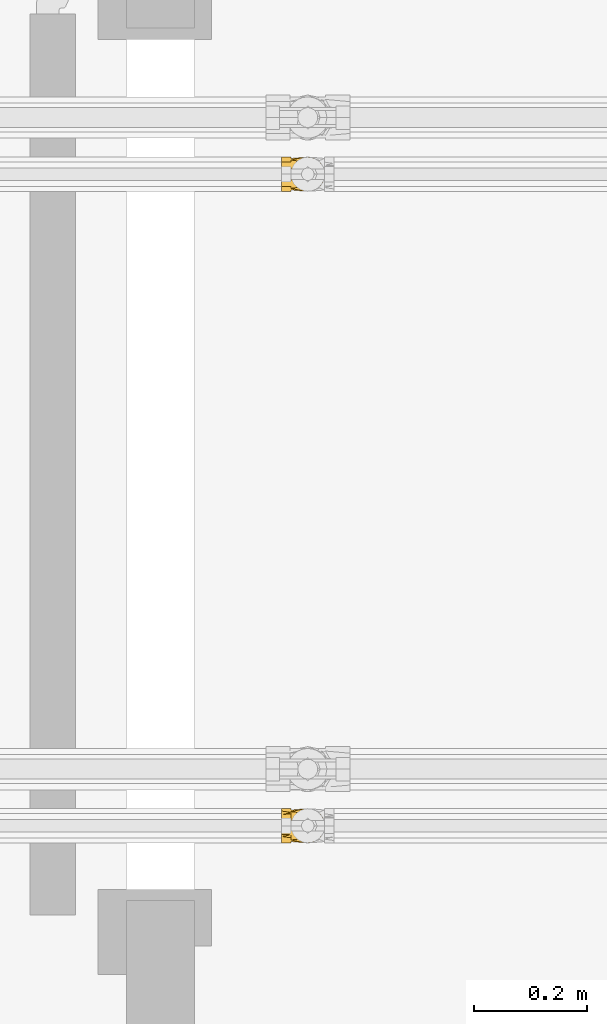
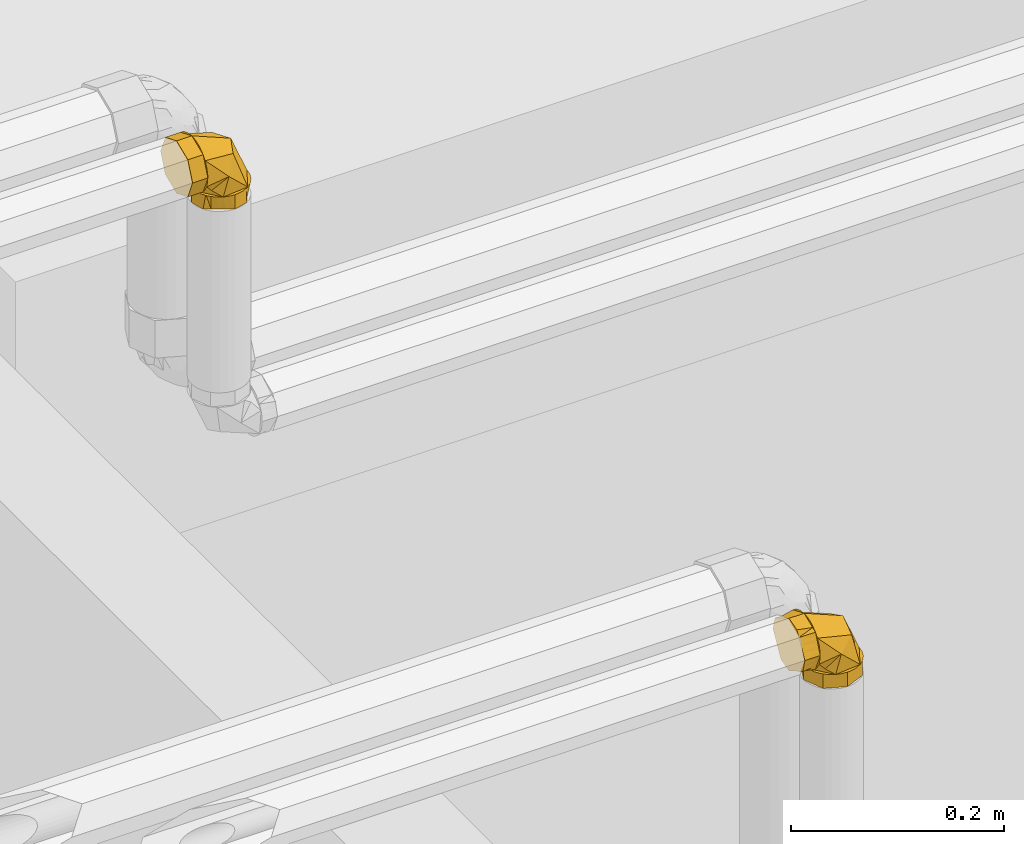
# One storey, part 154 of 652: 2 coverings.
"""IFC2X3 building model written with IfcOpenShell, lengths in millimetres."""

import ifcopenshell
import ifcopenshell.guid

model = None  # the IFC model being written
_history = None  # IfcOwnerHistory: only IFC2X3 demands one
_inside = {}  # id of a spatial element -> (the spatial element, [elements in it])
_under = {}  # id of a project, library or spatial element -> (it, [spatial elements below it])
_declared = {}  # id of a project -> (the project, [libraries it declares])
_typed = {}  # id of a type object -> (the type object, [elements of that type])
_made_of = {}  # id of a material, layer set ... -> (it, [elements and type objects made of it])


def new_model(schema):
    """Start an empty IFC model of exactly this schema.

    Asked for "IFC4X3", IfcOpenShell would pick the latest addendum, in which some entities
    have other attributes; the version numbers below select the first issue.
    IFC2X3 requires an IfcOwnerHistory on every rooted entity: one is made here for all.
    """
    global model, _history
    if schema == "IFC4X3":
        model = ifcopenshell.file(schema_version=(4, 3, 0, 0))
    else:
        model = ifcopenshell.file(schema=schema)
    _inside.clear()
    _under.clear()
    _declared.clear()
    _typed.clear()
    _made_of.clear()
    _history = None
    if model.schema == "IFC2X3":
        org = make("IfcOrganization", Name="unknown")
        user = make(
            "IfcPersonAndOrganization",
            ThePerson=make("IfcPerson", FamilyName="unknown"),
            TheOrganization=org,
        )
        app = make(
            "IfcApplication",
            ApplicationDeveloper=org,
            Version="unknown",
            ApplicationFullName="unknown",
            ApplicationIdentifier="unknown",
        )
        _history = make(
            "IfcOwnerHistory",
            OwningUser=user,
            OwningApplication=app,
            ChangeAction="ADDED",
            CreationDate=0,
        )
    return model


def make(cls, **values):
    """One entity of the class cls with the attributes given. An attribute that is None is left unset."""
    return model.create_entity(
        cls, **{name: value for name, value in values.items() if value is not None}
    )


def entity(cls, *values):
    """Any entity or typed value of the class cls, its attributes in the order of the schema. None: left unset."""
    e = model.create_entity(cls)
    for i, value in enumerate(values):
        if value is not None:
            e[i] = value
    return e


def rooted(cls, **values):
    """An entity with a GlobalId (a new one), such as an element, a storey or a relation."""
    return make(cls, GlobalId=ifcopenshell.guid.new(), OwnerHistory=_history, **values)


def si_unit(unit_type, name, prefix=None):
    """IfcSIUnit, for example si_unit("LENGTHUNIT", "METRE", prefix="MILLI")."""
    return make("IfcSIUnit", UnitType=unit_type, Prefix=prefix, Name=name)


def converted_unit(unit_type, name, factor, base, dimensions=None, offset=None):
    """IfcConversionBasedUnit, such as the inch: factor (a typed value) times the base unit."""
    return make(
        "IfcConversionBasedUnit"
        if offset is None
        else "IfcConversionBasedUnitWithOffset",
        ConversionOffset=offset,
        Dimensions=None
        if dimensions is None
        else entity("IfcDimensionalExponents", *dimensions),
        UnitType=unit_type,
        Name=name,
        ConversionFactor=make(
            "IfcMeasureWithUnit", ValueComponent=factor, UnitComponent=base
        ),
    )


def assignment(units):
    """IfcUnitAssignment: the units of a project."""
    return None if units is None else make("IfcUnitAssignment", Units=units)


def point(xyz):
    """IfcCartesianPoint."""
    return None if xyz is None else make("IfcCartesianPoint", Coordinates=xyz)


def direction(xyz):
    """IfcDirection."""
    return None if xyz is None else make("IfcDirection", DirectionRatios=xyz)


def frame(location, z_axis=None, x_axis=None):
    """IfcAxis2Placement3D, a coordinate frame: its origin and axes. An axis left out is left unset."""
    return make(
        "IfcAxis2Placement3D",
        Location=point(location),
        Axis=direction(z_axis),
        RefDirection=direction(x_axis),
    )


def origin():
    """The frame at (0, 0, 0) with its axes left unset."""
    return frame((0.0, 0.0, 0.0))


def place(relative_to, where):
    """IfcLocalPlacement: puts the frame where relative to a parent placement (None: the world)."""
    return make(
        "IfcLocalPlacement", PlacementRelTo=relative_to, RelativePlacement=where
    )


def context(
    kind, dimensions, precision=None, world=None, true_north=None, identifier=None
):
    """IfcGeometricRepresentationContext, for example the 3D "Model" context."""
    return make(
        "IfcGeometricRepresentationContext",
        ContextIdentifier=identifier,
        ContextType=kind,
        CoordinateSpaceDimension=dimensions,
        Precision=precision,
        WorldCoordinateSystem=world,
        TrueNorth=true_north,
    )


def subcontext(parent, identifier, kind, view, scale=None):
    """IfcGeometricRepresentationSubContext, for example "Body" below "Model"."""
    return make(
        "IfcGeometricRepresentationSubContext",
        ContextIdentifier=identifier,
        ContextType=kind,
        ParentContext=parent,
        TargetScale=scale,
        TargetView=view,
    )


def project(units=None, contexts=None):
    """IfcProject with its units and contexts."""
    return rooted(
        "IfcProject",
        Name="project",
        RepresentationContexts=contexts,
        UnitsInContext=assignment(units),
    )


def spatial(cls, under=None, at=None, **own):
    """A site, building, storey or space (cls), placed at a placement, below another one or the project."""
    s = rooted(cls, ObjectPlacement=at, **own)
    if under is not None:
        _under.setdefault(under.id(), (under, []))[1].append(s)
    return s


def faces_of(points, faces, orient=None, outer=None):
    """IfcFace entities. A face is a list of loops; a loop is a list of indices into points, from 0.

    orient and outer hold one flag for each loop. By default every Orientation is true, the
    first loop of a face is its IfcFaceOuterBound and the others are IfcFaceBound.
    """
    made = []
    for i, loops in enumerate(faces):
        bounds = []
        for j, loop in enumerate(loops):
            is_outer = j == 0 if outer is None else outer[i][j]
            bounds.append(
                make(
                    "IfcFaceOuterBound" if is_outer else "IfcFaceBound",
                    Bound=make("IfcPolyLoop", Polygon=[points[k] for k in loop]),
                    Orientation=True if orient is None else orient[i][j],
                )
            )
        made.append(make("IfcFace", Bounds=bounds))
    return made


def face_set(faces, orient=None, outer=None):
    """The faces of one IfcConnectedFaceSet. surface_model builds it on its shared points."""
    return ("IfcConnectedFaceSet", faces, orient, outer)


def surface_model(cls, points, shells):
    """IfcFaceBasedSurfaceModel or IfcShellBasedSurfaceModel (cls): surfaces that need not close."""
    shared = [point(p) for p in points]
    made = [make(c, CfsFaces=faces_of(shared, fs, o, b)) for c, fs, o, b in shells]
    if cls == "IfcFaceBasedSurfaceModel":
        return make(cls, FbsmFaces=made)
    return make(cls, SbsmBoundary=made)


def shape(context_of_items, identifier, shape_type, items):
    """IfcShapeRepresentation: the items that make up one representation, for example the "Body"."""
    return make(
        "IfcShapeRepresentation",
        ContextOfItems=context_of_items,
        RepresentationIdentifier=identifier,
        RepresentationType=shape_type,
        Items=items,
    )


def material(Name=None, Category=None):
    """IfcMaterial."""
    return make("IfcMaterial", Name=Name, Category=Category)


def made_of(thing, what):
    """Note that an element or type object is made of a material, layer set ...; save() writes the relation."""
    if what is not None:
        _made_of.setdefault(what.id(), (what, []))[1].append(thing)
    return thing


def type_object(cls, material=None, **own):
    """A type object (cls), such as IfcWallType, which elements share."""
    return made_of(rooted(cls, **own), material)


def element(
    cls,
    number,
    at=None,
    inside=None,
    cuts=None,
    type_object=None,
    material=None,
    context=None,
    identifier="Body",
    shape_type=None,
    held_by="IfcProductDefinitionShape",
    body=None,
    shapes=None,
    **own,
):
    """One element of the class cls, such as IfcWall. Its Tag is "e" and its number.

    at: its placement. inside: the storey or other place that contains it. cuts: it is an
    opening in that element (IfcRelVoidsElement). A single representation is given by context,
    identifier, shape_type and body (its items); several are given by shapes. held_by: the class
    of the entity that holds the representations. save() writes the other relations.
    """
    e = rooted(cls, Tag="e%d" % number, ObjectPlacement=at, **own)
    if body is not None:
        shapes = [shape(context, identifier, shape_type, body)]
    if shapes is not None:
        e.Representation = make(held_by, Representations=shapes)
    if inside is not None:
        _inside.setdefault(inside.id(), (inside, []))[1].append(e)
    if cuts is not None:
        rooted(
            "IfcRelVoidsElement", RelatingBuildingElement=cuts, RelatedOpeningElement=e
        )
    if type_object is not None:
        _typed.setdefault(type_object.id(), (type_object, []))[1].append(e)
    return made_of(e, material)


def aggregate(whole, parts):
    """IfcRelAggregates: a whole, such as a stair, and the parts it consists of."""
    return rooted("IfcRelAggregates", RelatingObject=whole, RelatedObjects=parts)


def save(model, path):
    """Write the relations noted so far, then the file.

    IfcRelAggregates (storeys below a building ...), IfcRelContainedInSpatialStructure (elements
    in a storey), IfcRelDefinesByType, IfcRelAssociatesMaterial and IfcRelDeclares: one each for
    every whole, place, type object, material and project.
    """
    for whole, parts in _under.values():
        aggregate(whole, parts)
    for where, things in _inside.values():
        rooted(
            "IfcRelContainedInSpatialStructure",
            RelatedElements=things,
            RelatingStructure=where,
        )
    for kind, things in _typed.values():
        rooted("IfcRelDefinesByType", RelatedObjects=things, RelatingType=kind)
    for what, things in _made_of.values():
        rooted("IfcRelAssociatesMaterial", RelatedObjects=things, RelatingMaterial=what)
    for by, libraries in _declared.values():
        rooted("IfcRelDeclares", RelatingContext=by, RelatedDefinitions=libraries)
    model.write(path)


model = new_model("IFC2X3")

# Units and contexts
model_context = context("Model", 3, precision=0.01, world=frame((0.0, 0.0, 308426.39999999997)), true_north=direction((6.123233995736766e-17, 1.0)))
plan_context = context("Plan", 3, precision=0.01, world=frame((0.0, 0.0, 308426.39999999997)), true_north=direction((6.123233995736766e-17, 1.0)))
body_context = subcontext(model_context, "Body", "Model", "MODEL_VIEW")
ifc_project = project(units=[si_unit("LENGTHUNIT", "METRE", prefix="MILLI"), si_unit("AREAUNIT", "SQUARE_METRE"), si_unit("VOLUMEUNIT", "CUBIC_METRE"), converted_unit("PLANEANGLEUNIT", "DEGREE", entity("IfcPlaneAngleMeasure", 0.017453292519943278), si_unit("PLANEANGLEUNIT", "RADIAN"), dimensions=[0, 0, 0, 0, 0, 0, 0])], contexts=[model_context, plan_context])

# Site, building, storey
site_placement = place(None, origin())
site = spatial("IfcSite", under=ifc_project, at=site_placement, Name="Default", CompositionType="ELEMENT")
building_placement = place(site_placement, origin())
building = spatial("IfcBuilding", under=site, at=building_placement, CompositionType="ELEMENT")
storey_placement = place(building_placement, frame((0.0, 0.0, 1730.6999999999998)))
storey = spatial("IfcBuildingStorey", under=building, at=storey_placement, Name="EG_Produktion_FFB", CompositionType="ELEMENT", Elevation=1730.6999999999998)

# Coverings
ifc_material = material(Name="Dämmung - Armaflex-Schlauch")
covering_type = type_object("IfcCoveringType", Name="Rohrdämmung außen:Armaflex-Schlauch", PredefinedType="INSULATION")
covering_1_placement = place(storey_placement, frame((19423.982749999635, 60968.292227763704, 4231.707772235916)))
element("IfcCovering", 1, at=covering_1_placement, inside=storey, type_object=covering_type, material=ifc_material, Name="Rohrdämmung außen:Armaflex-Schlauch", ObjectType="Rohrdämmung außen:Armaflex-Schlauch", PredefinedType="INSULATION", context=body_context, shape_type="SurfaceModel", body=[
    surface_model("IfcFaceBasedSurfaceModel", [(16.512750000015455, 25.687212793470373, -61.21227223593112), (16.512750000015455, 18.70981950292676, -58.87053868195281), (16.512750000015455, 12.508891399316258, -54.90616939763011), (16.512750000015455, 7.454856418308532, -49.55598588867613), (16.51275000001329, 3.8496299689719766, -43.139594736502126), (16.51275000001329, 1.908579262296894, -36.040295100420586), (16.51275000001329, 1.7476578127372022, -28.68218138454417), (16.51275000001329, 3.3764786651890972, -21.504808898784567), (16.512750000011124, 6.697740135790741, -14.936935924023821), (16.512750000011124, 11.513038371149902, -9.370910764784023), (16.512750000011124, 17.534719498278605, -5.139233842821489), (16.512750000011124, 24.40306334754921, -2.4946949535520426), (16.512750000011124, 31.70777223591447, -1.5952722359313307), (16.512750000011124, 39.012481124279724, -2.4946949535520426), (16.512750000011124, 45.88082497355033, -5.139233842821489), (16.512750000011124, 51.902506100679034, -9.370910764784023), (16.512750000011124, 56.71780433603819, -14.936935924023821), (16.51275000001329, 60.03906580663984, -21.504808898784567), (16.51275000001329, 61.667886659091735, -28.682181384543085), (16.51275000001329, 61.50696520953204, -36.040295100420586), (16.51275000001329, 59.56591450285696, -43.139594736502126), (16.512750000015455, 55.96068805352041, -49.55598588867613), (16.512750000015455, 50.906653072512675, -54.90616939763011), (16.512750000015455, 44.70572496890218, -58.87053868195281), (16.512750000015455, 37.728331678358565, -61.21227223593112), (18.854483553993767, 44.70572496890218, -61.21227223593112), (22.818852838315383, 50.906653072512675, -61.21227223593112), (28.169036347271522, 55.96068805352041, -61.21227223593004), (34.58542749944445, 59.56591450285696, -61.21227223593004), (41.6847271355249, 61.50696520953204, -61.21227223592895), (49.04284085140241, 61.667886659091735, -61.21227223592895), (56.22021333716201, 60.03906580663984, -61.21227223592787), (62.788086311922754, 56.71780433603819, -61.21227223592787), (68.35411147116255, 51.902506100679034, -61.21227223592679), (72.58578839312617, 45.88082497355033, -61.21227223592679), (75.23032728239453, 39.012481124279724, -61.21227223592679), (76.12975000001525, 31.70777223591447, -61.21227223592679), (75.23032728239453, 24.40306334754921, -61.21227223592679), (72.58578839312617, 17.534719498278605, -61.21227223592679), (68.35411147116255, 11.513038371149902, -61.21227223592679), (62.788086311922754, 6.697740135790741, -61.21227223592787), (56.22021333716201, 3.3764786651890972, -61.21227223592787), (49.04284085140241, 1.7476578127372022, -61.21227223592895), (41.6847271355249, 1.908579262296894, -61.21227223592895), (34.58542749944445, 3.8496299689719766, -61.21227223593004), (28.169036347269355, 7.454856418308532, -61.21227223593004), (22.818852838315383, 12.508891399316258, -61.21227223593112), (18.854483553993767, 18.70981950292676, -61.21227223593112), (23.877848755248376, 7.534713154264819, -52.3185174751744), (25.383570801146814, 14.96681764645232, -61.21216066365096), (16.5131820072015, 14.96681764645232, -52.34177186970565), (49.6832503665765, 11.61353395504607, -21.25471590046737), (16.5131820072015, 19.43166139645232, -8.14388826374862), (39.51526635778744, 1.7490197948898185, -38.21007631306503), (48.68679956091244, 5.274386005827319, -61.21216066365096), (58.6687484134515, 31.70998170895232, -19.056594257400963), (69.4587874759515, 19.20376833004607, -61.21216066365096), (16.5131820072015, 5.274386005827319, -29.038543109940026), (23.877848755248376, 55.88059938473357, -52.3185174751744), (16.5131820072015, 48.44849489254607, -52.34177186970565), (49.6832503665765, 51.80177858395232, -21.25471590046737), (16.5131820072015, 43.98365114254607, -8.14388826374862), (25.548677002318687, 48.64848268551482, -61.21216066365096), (39.51526635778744, 61.666292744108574, -38.21007631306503), (69.4587874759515, 44.21154420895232, -61.21216066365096), (16.5131820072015, 58.14092653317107, -29.038543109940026), (48.68679956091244, 58.14092653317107, -61.21216066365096), (0.0, 15.738207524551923, -8.210082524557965), (0.0, 21.061395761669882, -6.005145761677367), (0.0, 26.384583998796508, -3.8002089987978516), (0.0, 31.70777223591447, -1.5952722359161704), (0.0, 38.57087959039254, -4.438064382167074), (0.0, 42.35414871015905, -6.005145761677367), (0.0, 47.677336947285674, -8.210082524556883), (0.0, 53.000525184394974, -10.415019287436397), (0.0, 55.20546194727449, -15.738207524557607), (0.0, 57.410398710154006, -21.061395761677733), (0.0, 59.615335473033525, -26.38458399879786), (0.0, 61.8202722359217, -31.707772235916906), (0.0, 58.97748009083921, -38.570879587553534), (0.0, 57.410398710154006, -42.354148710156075), (0.0, 55.20546194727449, -47.6773369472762), (0.0, 53.000525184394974, -53.00052518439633), (0.0, 47.67733694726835, -55.20546194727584), (0.0, 42.35414871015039, -57.41039871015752), (0.0, 37.03096047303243, -59.61533547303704), (0.0, 31.70777223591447, -61.820272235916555), (0.0, 24.844664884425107, -58.977480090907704), (0.0, 21.061395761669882, -57.41039871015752), (0.0, 15.738207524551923, -55.20546194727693), (0.0, 10.415019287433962, -53.00052518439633), (0.0, 8.210082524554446, -47.67733694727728), (0.0, 6.005145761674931, -42.35414871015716), (0.0, 3.8002089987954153, -37.030960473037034), (0.0, 1.5952722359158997, -31.707772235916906), (0.0, 4.438064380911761, -24.84466488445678), (0.0, 6.005145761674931, -21.061395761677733), (0.0, 8.210082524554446, -15.738207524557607), (0.0, 10.415019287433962, -10.415019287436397), (16.51275000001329, 61.8202722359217, -31.70777223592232), (16.512750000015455, 59.615335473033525, -26.384583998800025), (16.512750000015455, 57.410398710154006, -21.061395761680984), (16.512750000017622, 55.20546194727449, -15.738207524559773), (16.51275000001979, 53.000525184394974, -10.415019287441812), (16.51275000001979, 45.43398709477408, -7.28085659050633), (16.51275000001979, 38.57087966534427, -4.438064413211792), (16.512750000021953, 31.70777223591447, -1.5952722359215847), (16.512750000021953, 26.384583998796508, -3.8002089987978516), (16.51275000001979, 21.061395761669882, -6.00514576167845), (16.51275000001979, 15.738207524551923, -8.210082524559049), (16.51275000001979, 10.415019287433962, -10.415019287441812), (16.512750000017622, 7.280856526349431, -17.98155753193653), (16.512750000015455, 4.438064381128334, -24.844664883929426), (16.51275000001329, 1.5952722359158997, -31.70777223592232), (16.512750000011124, 3.8002089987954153, -37.03096047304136), (16.512750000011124, 6.005145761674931, -42.35414871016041), (16.512750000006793, 8.210082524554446, -47.67733694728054), (16.512750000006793, 10.415019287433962, -53.000525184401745), (16.512750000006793, 17.98155753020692, -56.134687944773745), (16.512750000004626, 24.844664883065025, -58.97748009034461), (16.512750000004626, 31.70777223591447, -61.82027223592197), (16.512750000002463, 37.03096047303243, -59.61533547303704), (16.512750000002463, 42.35414871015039, -57.41039871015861), (16.512750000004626, 47.67733694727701, -55.20546194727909), (16.512750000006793, 53.000525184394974, -53.000525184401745), (16.51275000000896, 56.13468794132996, -45.433986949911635), (16.512750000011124, 58.9774800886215, -38.57087959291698), (76.12975000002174, 31.70777223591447, -77.7250222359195), (72.36568750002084, 25.18822474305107, -77.725022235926), (68.60162500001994, 18.66867725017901, -77.72502223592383), (64.83756250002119, 12.149129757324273, -77.72502223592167), (61.07350000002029, 5.62958226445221, -77.7250222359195), (53.54537500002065, 3.612427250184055, -77.7250222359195), (46.01725000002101, 1.5952722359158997, -77.7250222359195), (39.497702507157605, 5.3593347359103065, -77.725022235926), (32.97815501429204, 9.123397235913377, -77.72502223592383), (26.458607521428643, 12.887459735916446, -77.72502223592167), (19.93906002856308, 16.651522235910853, -77.7250222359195), (17.921905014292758, 24.179647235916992, -77.7250222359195), (15.904750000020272, 31.70777223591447, -77.7250222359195), (19.668812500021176, 38.227319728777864, -77.725022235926), (23.43287500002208, 44.74686722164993, -77.72502223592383), (27.19693750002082, 51.26641471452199, -77.72502223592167), (30.961000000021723, 57.78596220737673, -77.7250222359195), (38.48912500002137, 59.80311722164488, -77.7250222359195), (46.01725000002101, 61.82027223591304, -77.7250222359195), (52.53679749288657, 58.05620973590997, -77.725022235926), (59.05634498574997, 54.29214723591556, -77.72502223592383), (65.57589247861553, 50.528084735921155, -77.72502223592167), (72.09543997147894, 46.764022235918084, -77.7250222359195), (74.11259498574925, 39.23589723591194, -77.7250222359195), (76.12975000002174, 31.70777223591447, -61.21227223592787), (73.92481323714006, 37.03096047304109, -61.21227223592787), (71.7198764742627, 42.35414871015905, -61.21227223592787), (69.51493971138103, 47.67733694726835, -61.21227223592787), (67.31000294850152, 53.000525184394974, -61.21227223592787), (61.986814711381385, 55.20546194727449, -61.21227223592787), (56.66362647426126, 57.410398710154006, -61.21227223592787), (51.340438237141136, 59.615335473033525, -61.21227223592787), (46.01725000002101, 61.82027223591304, -61.21227223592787), (40.69406176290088, 59.615335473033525, -61.21227223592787), (35.37087352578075, 57.410398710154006, -61.21227223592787), (30.047685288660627, 55.20546194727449, -61.21227223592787), (24.724497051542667, 53.000525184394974, -61.21227223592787), (22.519560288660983, 47.67733694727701, -61.21227223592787), (20.314623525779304, 42.35414871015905, -61.21227223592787), (18.109686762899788, 37.03096047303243, -61.21227223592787), (15.904750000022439, 31.70777223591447, -61.21227223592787), (18.109686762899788, 26.384583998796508, -61.21227223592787), (20.314623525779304, 21.061395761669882, -61.21227223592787), (22.519560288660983, 15.738207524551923, -61.21227223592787), (24.724497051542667, 10.415019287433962, -61.21227223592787), (30.047685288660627, 8.210082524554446, -61.21227223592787), (35.37087352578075, 6.005145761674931, -61.21227223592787), (40.69406176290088, 3.8002089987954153, -61.21227223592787), (46.017250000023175, 1.5952722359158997, -61.21227223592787), (51.340438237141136, 3.8002089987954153, -61.21227223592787), (56.66362647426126, 6.005145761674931, -61.21227223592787), (61.986814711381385, 8.210082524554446, -61.21227223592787), (67.31000294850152, 10.415019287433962, -61.21227223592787), (69.51493971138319, 15.738207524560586, -61.21227223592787), (71.7198764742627, 21.061395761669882, -61.21227223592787), (73.92481323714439, 26.384583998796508, -61.21227223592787)], [face_set([[[0, 1, 2, 3, 4, 5, 6, 7, 8, 9, 10, 11, 12, 13, 14, 15, 16, 17, 18, 19, 20, 21, 22, 23]], [[24, 25, 26, 27, 28, 29, 30, 31, 32, 33, 34, 35, 36, 37, 38, 39, 40, 41, 42, 43, 44, 45, 46, 47]], [[48, 0, 49]], [[50, 48, 4]], [[51, 52, 8]], [[51, 8, 53]], [[53, 44, 54, 40]], [[48, 49, 44]], [[40, 51, 53]], [[55, 51, 56]], [[57, 4, 53]], [[56, 36, 55]], [[55, 52, 51]], [[48, 50, 0]], [[55, 12, 52]], [[4, 48, 53]], [[53, 8, 57]], [[44, 53, 48]], [[51, 40, 56]], [[58, 59, 20]], [[60, 61, 55]], [[24, 58, 62]], [[58, 20, 63]], [[16, 60, 63]], [[55, 64, 60]], [[24, 59, 58]], [[65, 16, 63]], [[28, 58, 63]], [[58, 28, 62]], [[61, 60, 16]], [[61, 12, 55]], [[63, 32, 66, 28]], [[63, 20, 65]], [[32, 63, 60]], [[64, 55, 36]], [[64, 32, 60]]]), face_set([[[67, 68, 69, 70, 71, 72, 73, 74, 75, 76, 77, 78, 79, 80, 81, 82, 83, 84, 85, 86, 87, 88, 89, 90, 91, 92, 93, 94, 95, 96, 97, 98]], [[99, 100, 101, 102, 103, 104, 105, 106, 107, 108, 109, 110, 111, 112, 113, 114, 115, 116, 117, 118, 119, 120, 121, 122, 123, 124, 125, 126]], [[105, 104, 103, 74, 73, 72, 71, 70, 106]], [[74, 103, 102, 101, 100, 99, 78, 77, 76, 75]], [[126, 125, 124, 82, 81, 80, 79, 78, 99]], [[82, 124, 123, 122, 121, 120, 86, 85, 84, 83]], [[119, 118, 117, 90, 89, 88, 87, 86, 120]], [[90, 117, 116, 115, 114, 113, 94, 93, 92, 91]], [[112, 111, 110, 98, 97, 96, 95, 94, 113]], [[98, 110, 109, 108, 107, 106, 70, 69, 68, 67]]]), face_set([[[127, 128, 129, 130, 131, 132, 133, 134, 135, 136, 137, 138, 139, 140, 141, 142, 143, 144, 145, 146, 147, 148, 149, 150]], [[151, 152, 153, 154, 155, 156, 157, 158, 159, 160, 161, 162, 163, 164, 165, 166, 167, 168, 169, 170, 171, 172, 173, 174, 175, 176, 177, 178, 179, 180, 181, 182]], [[170, 136, 171]], [[133, 174, 134]], [[174, 173, 134]], [[138, 169, 168]], [[168, 167, 139]], [[136, 170, 137]], [[135, 173, 172]], [[133, 175, 174]], [[173, 135, 134]], [[139, 138, 168]], [[172, 171, 136]], [[170, 169, 137]], [[138, 137, 169]], [[135, 172, 136]], [[178, 130, 179]], [[127, 182, 128]], [[182, 181, 128]], [[132, 177, 176]], [[176, 175, 133]], [[130, 178, 131]], [[129, 181, 180]], [[127, 151, 182]], [[181, 129, 128]], [[133, 132, 176]], [[180, 179, 130]], [[178, 177, 131]], [[132, 131, 177]], [[129, 180, 130]], [[154, 148, 155]], [[145, 158, 146]], [[158, 157, 146]], [[150, 153, 152]], [[152, 151, 127]], [[148, 154, 149]], [[147, 157, 156]], [[145, 159, 158]], [[157, 147, 146]], [[127, 150, 152]], [[156, 155, 148]], [[154, 153, 149]], [[150, 149, 153]], [[147, 156, 148]], [[162, 142, 163]], [[139, 166, 140]], [[166, 165, 140]], [[144, 161, 160]], [[160, 159, 145]], [[142, 162, 143]], [[141, 165, 164]], [[139, 167, 166]], [[165, 141, 140]], [[145, 144, 160]], [[164, 163, 142]], [[162, 161, 143]], [[144, 143, 161]], [[141, 164, 142]]])]),
])
covering_2_placement = place(storey_placement, frame((19423.98274999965, 59818.292227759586, 4381.707772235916)))
element("IfcCovering", 2, at=covering_2_placement, inside=storey, type_object=covering_type, material=ifc_material, Name="Rohrdämmung außen:Armaflex-Schlauch", ObjectType="Rohrdämmung außen:Armaflex-Schlauch", PredefinedType="INSULATION", context=body_context, shape_type="SurfaceModel", body=[
    surface_model("IfcFaceBasedSurfaceModel", [(16.512750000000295, 37.728331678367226, -61.212272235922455), (18.854483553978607, 44.70572496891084, -61.212272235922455), (22.818852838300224, 50.906653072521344, -61.212272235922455), (28.169036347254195, 55.96068805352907, -61.212272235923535), (34.585427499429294, 59.565914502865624, -61.212272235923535), (41.68472713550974, 61.50696520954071, -61.21227223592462), (49.04284085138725, 61.6678866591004, -61.21227223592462), (56.220213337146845, 60.0390658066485, -61.2122722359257), (62.78808631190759, 56.71780433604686, -61.2122722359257), (68.35411147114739, 51.902506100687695, -61.21227223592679), (72.585788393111, 45.880824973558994, -61.21227223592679), (75.23032728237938, 39.01248112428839, -61.21227223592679), (76.12975000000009, 31.70777223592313, -61.21227223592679), (75.23032728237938, 24.40306334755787, -61.21227223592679), (72.585788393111, 17.53471949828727, -61.21227223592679), (68.35411147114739, 11.513038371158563, -61.21227223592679), (62.78808631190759, 6.697740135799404, -61.2122722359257), (56.220213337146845, 3.37647866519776, -61.2122722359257), (49.04284085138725, 1.7476578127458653, -61.21227223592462), (41.68472713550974, 1.9085792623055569, -61.21227223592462), (34.585427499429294, 3.8496299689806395, -61.212272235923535), (28.169036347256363, 7.4548564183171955, -61.212272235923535), (22.818852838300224, 12.508891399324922, -61.212272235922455), (18.854483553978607, 18.70981950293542, -61.212272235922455), (16.512750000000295, 25.687212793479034, -61.212272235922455), (16.512750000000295, 18.70981950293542, -58.87053868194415), (16.512750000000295, 12.508891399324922, -54.90616939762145), (16.512750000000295, 7.4548564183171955, -49.55598588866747), (16.512750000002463, 3.8496299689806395, -43.139594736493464), (16.512750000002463, 1.9085792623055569, -36.040295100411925), (16.512750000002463, 1.7476578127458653, -28.68218138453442), (16.512750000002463, 3.37647866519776, -21.504808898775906), (16.512750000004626, 6.697740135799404, -14.936935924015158), (16.512750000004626, 11.513038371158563, -9.370910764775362), (16.512750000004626, 17.53471949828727, -5.139233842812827), (16.512750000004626, 24.40306334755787, -2.49469495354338), (16.512750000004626, 31.70777223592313, -1.5952722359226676), (16.512750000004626, 39.01248112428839, -2.49469495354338), (16.512750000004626, 45.880824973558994, -5.139233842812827), (16.512750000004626, 51.902506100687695, -9.370910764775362), (16.512750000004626, 56.71780433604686, -14.936935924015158), (16.512750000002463, 60.0390658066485, -21.504808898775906), (16.512750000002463, 61.6678866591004, -28.682181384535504), (16.512750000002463, 61.50696520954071, -36.040295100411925), (16.512750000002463, 59.565914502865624, -43.139594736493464), (16.512750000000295, 55.96068805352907, -49.55598588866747), (16.512750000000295, 50.906653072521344, -54.90616939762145), (16.512750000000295, 44.70572496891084, -58.87053868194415), (25.406825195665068, 55.881026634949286, -53.847347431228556), (16.513182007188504, 48.44892214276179, -52.34162538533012), (25.383570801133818, 48.44892214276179, -61.21201417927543), (56.47004541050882, 51.802205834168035, -28.041364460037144), (69.58087304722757, 43.98407839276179, -61.21201417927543), (39.51526635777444, 61.66671999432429, -38.20992982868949), (16.513182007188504, 58.14135378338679, -29.03839662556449), (58.66874841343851, 31.705758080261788, -19.056447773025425), (16.513182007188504, 44.21197145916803, -8.265827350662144), (48.686799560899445, 58.14135378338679, -61.21201417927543), (25.406825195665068, 7.5351404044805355, -53.847347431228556), (25.383570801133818, 14.967244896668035, -61.21201417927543), (56.47004541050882, 11.613961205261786, -28.041364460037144), (69.58087304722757, 19.432088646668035, -61.21201417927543), (16.513182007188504, 14.767257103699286, -52.17593782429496), (39.51526635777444, 1.749447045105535, -38.20992982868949), (16.513182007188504, 19.204195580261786, -8.265827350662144), (48.686799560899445, 5.274813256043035, -61.21201417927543), (16.513182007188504, 5.274813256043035, -29.03839662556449), (69.51493971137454, 47.677336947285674, -77.72502223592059), (71.71987647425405, 42.35414871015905, -77.7250222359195), (73.92481323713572, 37.03096047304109, -77.7250222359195), (76.12975000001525, 31.70777223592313, -77.72502223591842), (73.28695785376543, 24.844664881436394, -77.7250222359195), (71.71987647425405, 21.06139576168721, -77.7250222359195), (69.5149397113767, 15.738207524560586, -77.7250222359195), (67.31000294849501, 10.415019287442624, -77.72502223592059), (61.98681471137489, 8.21008252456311, -77.72502223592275), (56.66362647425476, 6.005145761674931, -77.72502223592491), (51.340438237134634, 3.8002089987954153, -77.72502223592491), (46.017250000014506, 1.5952722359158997, -77.72502223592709), (39.15414264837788, 4.438064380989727, -77.72502223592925), (35.37087352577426, 6.005145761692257, -77.72502223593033), (30.04768528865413, 8.21008252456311, -77.72502223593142), (24.724497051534, 10.415019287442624, -77.72502223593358), (22.519560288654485, 15.738207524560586, -77.72502223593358), (20.314623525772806, 21.061395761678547, -77.72502223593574), (18.10968676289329, 26.38458399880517, -77.72502223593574), (15.904750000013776, 31.70777223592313, -77.72502223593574), (18.747542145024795, 38.57087958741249, -77.72502223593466), (20.314623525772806, 42.35414871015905, -77.72502223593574), (22.519560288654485, 47.677336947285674, -77.72502223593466), (24.724497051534, 53.000525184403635, -77.72502223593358), (30.04768528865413, 55.20546194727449, -77.7250222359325), (35.37087352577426, 57.41039871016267, -77.72502223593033), (40.694061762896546, 59.61533547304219, -77.72502223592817), (46.017250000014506, 61.8202722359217, -77.72502223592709), (52.880357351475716, 58.97748009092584, -77.72502223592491), (56.66362647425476, 57.41039871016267, -77.72502223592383), (61.98681471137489, 55.205461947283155, -77.72502223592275), (67.31000294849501, 53.000525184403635, -77.72502223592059), (46.01725000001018, 1.5952722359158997, -61.21227223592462), (51.34043823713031, 3.800208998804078, -61.212272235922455), (56.66362647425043, 6.005145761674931, -61.212272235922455), (61.98681471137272, 8.21008252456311, -61.21227223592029), (67.31000294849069, 10.415019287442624, -61.21227223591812), (70.44416564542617, 17.98155737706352, -61.21227223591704), (73.28695782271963, 24.844664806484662, -61.21227223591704), (76.12975000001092, 31.70777223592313, -61.21227223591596), (73.92481323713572, 37.03096047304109, -61.21227223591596), (71.71987647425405, 42.35414871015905, -61.21227223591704), (69.51493971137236, 47.677336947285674, -61.21227223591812), (67.31000294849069, 53.000525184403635, -61.21227223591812), (59.74346470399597, 56.13468794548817, -61.21227223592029), (52.88035735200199, 58.977480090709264, -61.212272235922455), (46.01725000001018, 61.8202722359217, -61.21227223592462), (40.69406176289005, 59.61533547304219, -61.2122722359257), (35.37087352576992, 57.41039871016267, -61.21227223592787), (30.0476852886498, 55.20546194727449, -61.21227223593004), (24.72449705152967, 53.000525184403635, -61.21227223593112), (21.5903342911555, 45.43398694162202, -61.212272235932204), (18.747542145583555, 38.57087958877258, -61.212272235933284), (15.904750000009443, 31.70777223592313, -61.212272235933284), (18.10968676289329, 26.384583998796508, -61.212272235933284), (20.31462352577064, 21.061395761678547, -61.212272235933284), (22.519560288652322, 15.738207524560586, -61.21227223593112), (24.72449705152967, 10.415019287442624, -61.21227223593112), (32.291035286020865, 7.280856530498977, -61.21227223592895), (39.15414264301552, 4.438064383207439, -61.21227223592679), (0.0, 31.70777223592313, -1.5952722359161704), (0.0, 38.227319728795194, -5.359334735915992), (0.0, 44.74686722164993, -9.123397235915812), (0.0, 51.26641471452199, -12.887459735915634), (0.0, 57.78596220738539, -16.651522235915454), (0.0, 59.803117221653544, -24.1796472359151), (0.0, 61.8202722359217, -31.707772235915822), (0.0, 58.0562097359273, -38.2273197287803), (0.0, 54.292147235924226, -44.74686722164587), (0.0, 50.528084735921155, -51.26641471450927), (0.0, 46.764022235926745, -57.78596220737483), (0.0, 39.23589723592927, -59.80311722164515), (0.0, 31.70777223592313, -61.820272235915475), (0.0, 25.18822474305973, -58.05620973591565), (0.0, 18.668677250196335, -54.292147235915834), (0.0, 12.149129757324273, -50.52808473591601), (0.0, 5.629582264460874, -46.76402223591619), (0.0, 3.6124272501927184, -39.235897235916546), (0.0, 1.5952722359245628, -31.707772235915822), (0.0, 5.359334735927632, -25.18822474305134), (0.0, 9.12339723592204, -18.668677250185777), (0.0, 12.887459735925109, -12.149129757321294), (0.0, 16.651522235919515, -5.629582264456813), (0.0, 24.179647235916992, -3.612427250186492), (16.512750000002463, 31.70777223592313, -1.5952722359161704), (16.512750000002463, 26.38458399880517, -3.800208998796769), (16.512750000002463, 21.06139576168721, -6.005145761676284), (16.512750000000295, 15.738207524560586, -8.210082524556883), (16.512750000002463, 10.415019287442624, -10.415019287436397), (16.512750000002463, 8.210082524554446, -15.738207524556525), (16.512750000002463, 6.005145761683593, -21.06139576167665), (16.512750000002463, 3.800208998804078, -26.384583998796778), (16.512750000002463, 1.5952722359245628, -31.707772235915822), (16.512750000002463, 3.800208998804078, -37.03096047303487), (16.512750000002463, 6.005145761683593, -42.354148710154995), (16.512750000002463, 8.210082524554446, -47.67733694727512), (16.512750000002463, 10.415019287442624, -53.00052518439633), (16.512750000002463, 15.738207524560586, -55.20546194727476), (16.512750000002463, 21.06139576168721, -57.41039871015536), (16.512750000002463, 26.38458399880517, -59.615335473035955), (16.512750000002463, 31.70777223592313, -61.820272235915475), (16.512750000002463, 37.03096047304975, -59.615335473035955), (16.512750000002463, 42.35414871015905, -57.41039871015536), (16.512750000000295, 47.677336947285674, -55.20546194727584), (16.512750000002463, 53.000525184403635, -53.00052518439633), (16.512750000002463, 55.205461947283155, -47.67733694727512), (16.512750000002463, 57.41039871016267, -42.354148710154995), (16.512750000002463, 59.61533547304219, -37.03096047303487), (16.512750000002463, 61.8202722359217, -31.707772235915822), (16.512750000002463, 59.61533547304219, -26.384583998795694), (16.512750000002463, 57.41039871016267, -21.06139576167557), (16.512750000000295, 55.205461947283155, -15.738207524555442), (16.512750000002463, 53.000525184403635, -10.415019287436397), (16.512750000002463, 47.67733694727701, -8.210082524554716), (16.512750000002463, 42.35414871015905, -6.005145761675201), (16.512750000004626, 37.03096047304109, -3.8002089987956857)], [face_set([[[0, 1, 2, 3, 4, 5, 6, 7, 8, 9, 10, 11, 12, 13, 14, 15, 16, 17, 18, 19, 20, 21, 22, 23]], [[24, 25, 26, 27, 28, 29, 30, 31, 32, 33, 34, 35, 36, 37, 38, 39, 40, 41, 42, 43, 44, 45, 46, 47]], [[48, 0, 49]], [[50, 48, 4]], [[51, 52, 8]], [[53, 4, 48]], [[53, 44, 54, 40]], [[48, 49, 44]], [[40, 51, 53]], [[55, 51, 56]], [[44, 53, 48]], [[56, 36, 55]], [[55, 52, 51]], [[48, 50, 0]], [[55, 12, 52]], [[53, 8, 57, 4]], [[8, 53, 51]], [[51, 40, 56]], [[58, 59, 20]], [[60, 61, 55]], [[24, 58, 62]], [[58, 20, 63]], [[16, 60, 63]], [[55, 64, 60]], [[24, 59, 58]], [[65, 16, 63, 20]], [[28, 58, 63]], [[58, 28, 62]], [[61, 60, 16]], [[61, 12, 55]], [[63, 32, 66, 28]], [[32, 63, 60]], [[64, 55, 36]], [[64, 32, 60]]]), face_set([[[67, 68, 69, 70, 71, 72, 73, 74, 75, 76, 77, 78, 79, 80, 81, 82, 83, 84, 85, 86, 87, 88, 89, 90, 91, 92, 93, 94, 95, 96, 97, 98]], [[99, 100, 101, 102, 103, 104, 105, 106, 107, 108, 109, 110, 111, 112, 113, 114, 115, 116, 117, 118, 119, 120, 121, 122, 123, 124, 125, 126]], [[105, 104, 103, 74, 73, 72, 71, 70, 106]], [[74, 103, 102, 101, 100, 99, 78, 77, 76, 75]], [[126, 125, 124, 82, 81, 80, 79, 78, 99]], [[82, 124, 123, 122, 121, 120, 86, 85, 84, 83]], [[119, 118, 117, 90, 89, 88, 87, 86, 120]], [[90, 117, 116, 115, 114, 113, 94, 93, 92, 91]], [[112, 111, 110, 98, 97, 96, 95, 94, 113]], [[98, 110, 109, 108, 107, 106, 70, 69, 68, 67]]]), face_set([[[127, 128, 129, 130, 131, 132, 133, 134, 135, 136, 137, 138, 139, 140, 141, 142, 143, 144, 145, 146, 147, 148, 149, 150]], [[151, 152, 153, 154, 155, 156, 157, 158, 159, 160, 161, 162, 163, 164, 165, 166, 167, 168, 169, 170, 171, 172, 173, 174, 175, 176, 177, 178, 179, 180, 181, 182]], [[170, 136, 171]], [[133, 174, 134]], [[174, 173, 134]], [[138, 169, 168]], [[168, 167, 139]], [[136, 170, 137]], [[135, 173, 172]], [[133, 175, 174]], [[173, 135, 134]], [[139, 138, 168]], [[172, 171, 136]], [[170, 169, 137]], [[138, 137, 169]], [[135, 172, 136]], [[178, 130, 179]], [[127, 182, 128]], [[182, 181, 128]], [[132, 177, 176]], [[176, 175, 133]], [[130, 178, 131]], [[129, 181, 180]], [[127, 151, 182]], [[181, 129, 128]], [[133, 132, 176]], [[180, 179, 130]], [[178, 177, 131]], [[132, 131, 177]], [[129, 180, 130]], [[154, 148, 155]], [[145, 158, 146]], [[158, 157, 146]], [[150, 153, 152]], [[152, 151, 127]], [[148, 154, 149]], [[147, 157, 156]], [[145, 159, 158]], [[157, 147, 146]], [[127, 150, 152]], [[156, 155, 148]], [[154, 153, 149]], [[150, 149, 153]], [[147, 156, 148]], [[162, 142, 163]], [[139, 166, 140]], [[166, 165, 140]], [[144, 161, 160]], [[160, 159, 145]], [[142, 162, 143]], [[141, 165, 164]], [[139, 167, 166]], [[165, 141, 140]], [[145, 144, 160]], [[164, 163, 142]], [[162, 161, 143]], [[144, 143, 161]], [[141, 164, 142]]])]),
])

save(model, "model.ifc")
